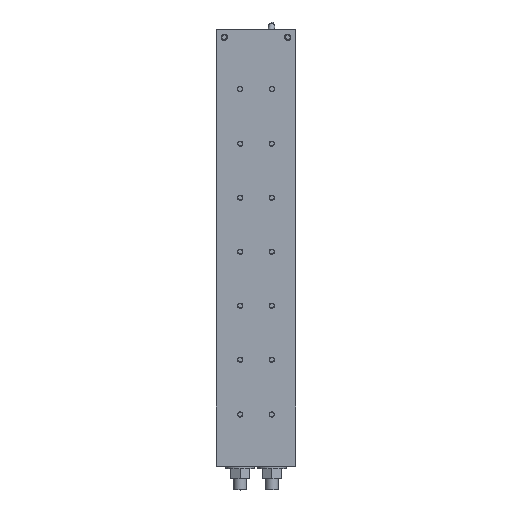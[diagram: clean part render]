
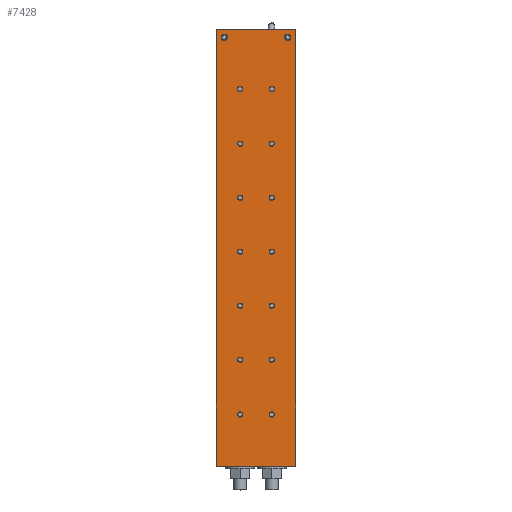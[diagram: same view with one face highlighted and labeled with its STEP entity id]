
A CAD part, top view. The second image highlights one B-rep face of the part: STEP entity #7428.
In plain terms, the highlighted planar face has unit normal (0, 0, 1).
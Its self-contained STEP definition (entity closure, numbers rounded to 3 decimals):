
#1083=LINE('',#13136,#1531);
#1087=LINE('',#13144,#1535);
#1090=LINE('',#13150,#1538);
#1092=LINE('',#13153,#1540);
#1531=VECTOR('',#11097,1000.);
#1535=VECTOR('',#11103,1000.);
#1538=VECTOR('',#11108,1000.);
#1540=VECTOR('',#11112,1000.);
#3149=ORIENTED_EDGE('',*,*,#4045,.F.);
#3150=ORIENTED_EDGE('',*,*,#4046,.F.);
#3151=ORIENTED_EDGE('',*,*,#4047,.F.);
#3152=ORIENTED_EDGE('',*,*,#4048,.F.);
#3153=ORIENTED_EDGE('',*,*,#4049,.F.);
#3154=ORIENTED_EDGE('',*,*,#4050,.F.);
#3155=ORIENTED_EDGE('',*,*,#4051,.F.);
#3156=ORIENTED_EDGE('',*,*,#4052,.F.);
#3157=ORIENTED_EDGE('',*,*,#4053,.F.);
#3158=ORIENTED_EDGE('',*,*,#4054,.F.);
#3159=ORIENTED_EDGE('',*,*,#4055,.F.);
#3160=ORIENTED_EDGE('',*,*,#4056,.F.);
#3161=ORIENTED_EDGE('',*,*,#4057,.F.);
#3162=ORIENTED_EDGE('',*,*,#4058,.F.);
#3163=ORIENTED_EDGE('',*,*,#4059,.F.);
#3164=ORIENTED_EDGE('',*,*,#4060,.F.);
#3165=ORIENTED_EDGE('',*,*,#4035,.T.);
#3166=ORIENTED_EDGE('',*,*,#4039,.T.);
#3167=ORIENTED_EDGE('',*,*,#4042,.T.);
#3168=ORIENTED_EDGE('',*,*,#4044,.T.);
#4035=EDGE_CURVE('',#4706,#4705,#1083,.T.);
#4039=EDGE_CURVE('',#4705,#4708,#1087,.T.);
#4042=EDGE_CURVE('',#4708,#4710,#1090,.T.);
#4044=EDGE_CURVE('',#4710,#4706,#1092,.T.);
#4045=EDGE_CURVE('',#4711,#4711,#5007,.T.);
#4046=EDGE_CURVE('',#4712,#4712,#5008,.T.);
#4047=EDGE_CURVE('',#4713,#4713,#5009,.T.);
#4048=EDGE_CURVE('',#4714,#4714,#5010,.T.);
#4049=EDGE_CURVE('',#4715,#4715,#5011,.T.);
#4050=EDGE_CURVE('',#4716,#4716,#5012,.T.);
#4051=EDGE_CURVE('',#4717,#4717,#5013,.T.);
#4052=EDGE_CURVE('',#4718,#4718,#5014,.T.);
#4053=EDGE_CURVE('',#4719,#4719,#5015,.T.);
#4054=EDGE_CURVE('',#4720,#4720,#5016,.T.);
#4055=EDGE_CURVE('',#4721,#4721,#5017,.T.);
#4056=EDGE_CURVE('',#4722,#4722,#5018,.T.);
#4057=EDGE_CURVE('',#4723,#4723,#5019,.T.);
#4058=EDGE_CURVE('',#4724,#4724,#5020,.T.);
#4059=EDGE_CURVE('',#4725,#4725,#5021,.T.);
#4060=EDGE_CURVE('',#4726,#4726,#5022,.T.);
#4705=VERTEX_POINT('',#13135);
#4706=VERTEX_POINT('',#13137);
#4708=VERTEX_POINT('',#13143);
#4710=VERTEX_POINT('',#13149);
#4711=VERTEX_POINT('',#13156);
#4712=VERTEX_POINT('',#13158);
#4713=VERTEX_POINT('',#13160);
#4714=VERTEX_POINT('',#13162);
#4715=VERTEX_POINT('',#13164);
#4716=VERTEX_POINT('',#13166);
#4717=VERTEX_POINT('',#13168);
#4718=VERTEX_POINT('',#13170);
#4719=VERTEX_POINT('',#13172);
#4720=VERTEX_POINT('',#13174);
#4721=VERTEX_POINT('',#13176);
#4722=VERTEX_POINT('',#13178);
#4723=VERTEX_POINT('',#13180);
#4724=VERTEX_POINT('',#13182);
#4725=VERTEX_POINT('',#13184);
#4726=VERTEX_POINT('',#13186);
#5007=CIRCLE('',#8888,3.324);
#5008=CIRCLE('',#8889,3.324);
#5009=CIRCLE('',#8890,3.324);
#5010=CIRCLE('',#8891,3.324);
#5011=CIRCLE('',#8892,3.324);
#5012=CIRCLE('',#8893,3.324);
#5013=CIRCLE('',#8894,3.324);
#5014=CIRCLE('',#8895,3.324);
#5015=CIRCLE('',#8896,3.324);
#5016=CIRCLE('',#8897,3.324);
#5017=CIRCLE('',#8898,3.324);
#5018=CIRCLE('',#8899,3.324);
#5019=CIRCLE('',#8900,3.324);
#5020=CIRCLE('',#8901,3.324);
#5021=CIRCLE('',#8902,3.324);
#5022=CIRCLE('',#8903,3.324);
#5847=EDGE_LOOP('',(#3149));
#5848=EDGE_LOOP('',(#3150));
#5849=EDGE_LOOP('',(#3151));
#5850=EDGE_LOOP('',(#3152));
#5851=EDGE_LOOP('',(#3153));
#5852=EDGE_LOOP('',(#3154));
#5853=EDGE_LOOP('',(#3155));
#5854=EDGE_LOOP('',(#3156));
#5855=EDGE_LOOP('',(#3157));
#5856=EDGE_LOOP('',(#3158));
#5857=EDGE_LOOP('',(#3159));
#5858=EDGE_LOOP('',(#3160));
#5859=EDGE_LOOP('',(#3161));
#5860=EDGE_LOOP('',(#3162));
#5861=EDGE_LOOP('',(#3163));
#5862=EDGE_LOOP('',(#3164));
#5863=EDGE_LOOP('',(#3165,#3166,#3167,#3168));
#6739=FACE_BOUND('',#5847,.T.);
#6740=FACE_BOUND('',#5848,.T.);
#6741=FACE_BOUND('',#5849,.T.);
#6742=FACE_BOUND('',#5850,.T.);
#6743=FACE_BOUND('',#5851,.T.);
#6744=FACE_BOUND('',#5852,.T.);
#6745=FACE_BOUND('',#5853,.T.);
#6746=FACE_BOUND('',#5854,.T.);
#6747=FACE_BOUND('',#5855,.T.);
#6748=FACE_BOUND('',#5856,.T.);
#6749=FACE_BOUND('',#5857,.T.);
#6750=FACE_BOUND('',#5858,.T.);
#6751=FACE_BOUND('',#5859,.T.);
#6752=FACE_BOUND('',#5860,.T.);
#6753=FACE_BOUND('',#5861,.T.);
#6754=FACE_BOUND('',#5862,.T.);
#6755=FACE_BOUND('',#5863,.T.);
#6989=PLANE('',#8887);
#7428=ADVANCED_FACE('',(#6739,#6740,#6741,#6742,#6743,#6744,#6745,#6746,
#6747,#6748,#6749,#6750,#6751,#6752,#6753,#6754,#6755),#6989,.T.);
#8887=AXIS2_PLACEMENT_3D('',#13154,#11113,#11114);
#8888=AXIS2_PLACEMENT_3D('',#13155,#11115,#11116);
#8889=AXIS2_PLACEMENT_3D('',#13157,#11117,#11118);
#8890=AXIS2_PLACEMENT_3D('',#13159,#11119,#11120);
#8891=AXIS2_PLACEMENT_3D('',#13161,#11121,#11122);
#8892=AXIS2_PLACEMENT_3D('',#13163,#11123,#11124);
#8893=AXIS2_PLACEMENT_3D('',#13165,#11125,#11126);
#8894=AXIS2_PLACEMENT_3D('',#13167,#11127,#11128);
#8895=AXIS2_PLACEMENT_3D('',#13169,#11129,#11130);
#8896=AXIS2_PLACEMENT_3D('',#13171,#11131,#11132);
#8897=AXIS2_PLACEMENT_3D('',#13173,#11133,#11134);
#8898=AXIS2_PLACEMENT_3D('',#13175,#11135,#11136);
#8899=AXIS2_PLACEMENT_3D('',#13177,#11137,#11138);
#8900=AXIS2_PLACEMENT_3D('',#13179,#11139,#11140);
#8901=AXIS2_PLACEMENT_3D('',#13181,#11141,#11142);
#8902=AXIS2_PLACEMENT_3D('',#13183,#11143,#11144);
#8903=AXIS2_PLACEMENT_3D('',#13185,#11145,#11146);
#11097=DIRECTION('',(1.,0.,0.));
#11103=DIRECTION('',(0.,1.,0.));
#11108=DIRECTION('',(-1.,0.,0.));
#11112=DIRECTION('',(0.,-1.,0.));
#11113=DIRECTION('',(0.,0.,1.));
#11114=DIRECTION('',(1.,0.,0.));
#11115=DIRECTION('',(0.,0.,1.));
#11116=DIRECTION('',(0.,1.,0.));
#11117=DIRECTION('',(0.,0.,1.));
#11118=DIRECTION('',(0.,1.,0.));
#11119=DIRECTION('',(0.,0.,1.));
#11120=DIRECTION('',(0.,1.,0.));
#11121=DIRECTION('',(0.,0.,1.));
#11122=DIRECTION('',(0.,1.,0.));
#11123=DIRECTION('',(0.,0.,1.));
#11124=DIRECTION('',(0.,1.,0.));
#11125=DIRECTION('',(0.,0.,1.));
#11126=DIRECTION('',(0.,1.,0.));
#11127=DIRECTION('',(0.,0.,1.));
#11128=DIRECTION('',(0.,1.,0.));
#11129=DIRECTION('',(0.,0.,1.));
#11130=DIRECTION('',(0.,1.,0.));
#11131=DIRECTION('',(0.,0.,1.));
#11132=DIRECTION('',(0.,1.,0.));
#11133=DIRECTION('',(0.,0.,1.));
#11134=DIRECTION('',(0.,1.,0.));
#11135=DIRECTION('',(0.,0.,1.));
#11136=DIRECTION('',(0.,1.,0.));
#11137=DIRECTION('',(0.,0.,1.));
#11138=DIRECTION('',(0.,1.,0.));
#11139=DIRECTION('',(0.,0.,1.));
#11140=DIRECTION('',(0.,1.,0.));
#11141=DIRECTION('',(0.,0.,1.));
#11142=DIRECTION('',(0.,1.,0.));
#11143=DIRECTION('',(0.,0.,1.));
#11144=DIRECTION('',(0.,1.,0.));
#11145=DIRECTION('',(0.,0.,1.));
#11146=DIRECTION('',(0.,1.,0.));
#13135=CARTESIAN_POINT('',(50.,-275.,20.));
#13136=CARTESIAN_POINT('',(-50.,-275.,20.));
#13137=CARTESIAN_POINT('',(-50.,-275.,20.));
#13143=CARTESIAN_POINT('',(50.,275.,20.));
#13144=CARTESIAN_POINT('',(50.,-275.,20.));
#13149=CARTESIAN_POINT('',(-50.,275.,20.));
#13150=CARTESIAN_POINT('',(50.,275.,20.));
#13153=CARTESIAN_POINT('',(-50.,275.,20.));
#13154=CARTESIAN_POINT('',(0.,0.,20.));
#13155=CARTESIAN_POINT('',(40.,-265.,20.));
#13156=CARTESIAN_POINT('',(40.,-261.677,20.));
#13157=CARTESIAN_POINT('',(-40.,-265.,20.));
#13158=CARTESIAN_POINT('',(-40.,-261.677,20.));
#13159=CARTESIAN_POINT('',(-20.,-200.,20.));
#13160=CARTESIAN_POINT('',(-20.,-196.677,20.));
#13161=CARTESIAN_POINT('',(-20.,-131.,20.));
#13162=CARTESIAN_POINT('',(-20.,-127.677,20.));
#13163=CARTESIAN_POINT('',(-20.,-63.,20.));
#13164=CARTESIAN_POINT('',(-20.,-59.677,20.));
#13165=CARTESIAN_POINT('',(-20.,5.,20.));
#13166=CARTESIAN_POINT('',(-20.,8.324,20.));
#13167=CARTESIAN_POINT('',(-20.,73.,20.));
#13168=CARTESIAN_POINT('',(-20.,76.324,20.));
#13169=CARTESIAN_POINT('',(-20.,141.,20.));
#13170=CARTESIAN_POINT('',(-20.,144.324,20.));
#13171=CARTESIAN_POINT('',(-20.,210.,20.));
#13172=CARTESIAN_POINT('',(-20.,213.324,20.));
#13173=CARTESIAN_POINT('',(20.,210.,20.));
#13174=CARTESIAN_POINT('',(20.,213.324,20.));
#13175=CARTESIAN_POINT('',(20.,141.,20.));
#13176=CARTESIAN_POINT('',(20.,144.324,20.));
#13177=CARTESIAN_POINT('',(20.,73.,20.));
#13178=CARTESIAN_POINT('',(20.,76.324,20.));
#13179=CARTESIAN_POINT('',(20.,5.,20.));
#13180=CARTESIAN_POINT('',(20.,8.324,20.));
#13181=CARTESIAN_POINT('',(20.,-63.,20.));
#13182=CARTESIAN_POINT('',(20.,-59.677,20.));
#13183=CARTESIAN_POINT('',(20.,-131.,20.));
#13184=CARTESIAN_POINT('',(20.,-127.677,20.));
#13185=CARTESIAN_POINT('',(20.,-200.,20.));
#13186=CARTESIAN_POINT('',(20.,-196.677,20.));
